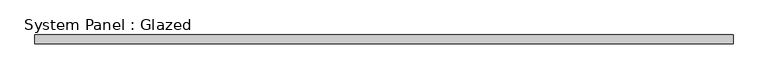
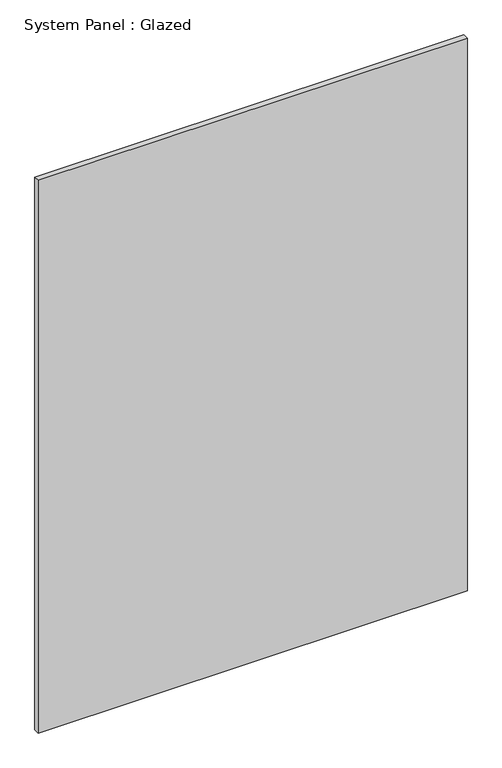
"""IFC4 building model written with IfcOpenShell, lengths in millimetres: plate geometry, System Panel : Glazed."""

from ifc_helpers import new_model, si_unit, origin, origin_with_axes, place, context, project, spatial, polyline, outline, extrude, source, transform, mapped, element, save


def system_panel_glazed_8b8a1f57(model_context):
    return source(origin(), model_context, "Body", "SweptSolid", [
        extrude(outline(polyline([(989.2021654, 19.05), (-989.2021654, 19.05), (-989.2021654, 44.45), (989.2021654, 44.45), (989.2021654, 19.05)])), origin_with_axes(), (0.0, 0.0, 1.0), 2692.4),
    ])


if __name__ == "__main__":
    model = new_model("IFC4")
    model_context = context("Model", 3, world=origin())
    ifc_project = project(units=[si_unit("LENGTHUNIT", "METRE", prefix="MILLI")], contexts=[model_context])
    site = spatial("IfcSite", under=ifc_project)
    building = spatial("IfcBuilding", under=site)
    placement = place(None, origin())
    system_panel_glazed_shape = system_panel_glazed_8b8a1f57(model_context)
    element("IfcPlate", 1, ObjectType="System Panel : Glazed", at=placement, inside=building, context=model_context, shape_type="MappedRepresentation", body=[
        mapped(system_panel_glazed_shape, transform((0.0, 0.0, 0.0), x_axis=(1.0, 0.0, 0.0), y_axis=(0.0, 1.0, 0.0), z_axis=(0.0, 0.0, 1.0))),
    ])
    save(model, "model.ifc")
